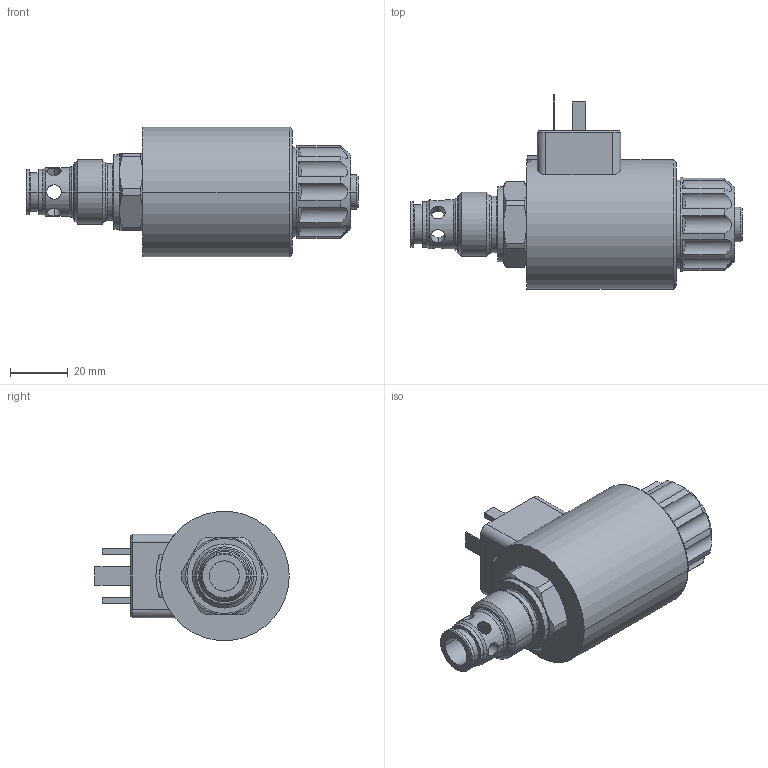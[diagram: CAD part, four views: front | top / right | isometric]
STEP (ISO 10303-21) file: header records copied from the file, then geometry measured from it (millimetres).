
FILE_DESCRIPTION((''),'2;1');
FILE_NAME('1000284444_ASM','2021-04-06T',('l.soukupova'),(''),'PRO/ENGINEER BY PARAMETRIC TECHNOLOGY CORPORATION, 2015440','PRO/ENGINEER BY PARAMETRIC TECHNOLOGY CORPORATION, 2015440','');
FILE_SCHEMA(('AUTOMOTIVE_DESIGN { 1 0 10303 214 1 1 1 1 }'));
Length unit declared in the file: millimetre
Products named in the file (4): SD3P_B2_HX_M5; SD3P_B2_H2L2_428326_ASM; C22B_E1_AF0; 1000284444_ASM
Assembly tree (3 placements, depth 3):
  1000284444_ASM
    SD3P_B2_H2L2_428326_ASM
      SD3P_B2_HX_M5
    C22B_E1_AF0
Bounding box: 115.3 x 67.5 x 45 mm (x, y, z)
Volume: 119003.6 mm3; surface area: 27808.2 mm2
Topology: 2 solids, 4 shells, 212 faces, 545 edges, 385 vertices
Faces by surface type: cylinder 83, plane 69, cone 50, torus 10
Entity records: 12184 total; most frequent: CARTESIAN_POINT 3496, DIRECTION 1137, ORIENTED_EDGE 1014, PRESENTATION_STYLE_ASSIGNMENT 694, STYLED_ITEM 565, CURVE_STYLE 561, EDGE_CURVE 511, AXIS2_PLACEMENT_3D 438
